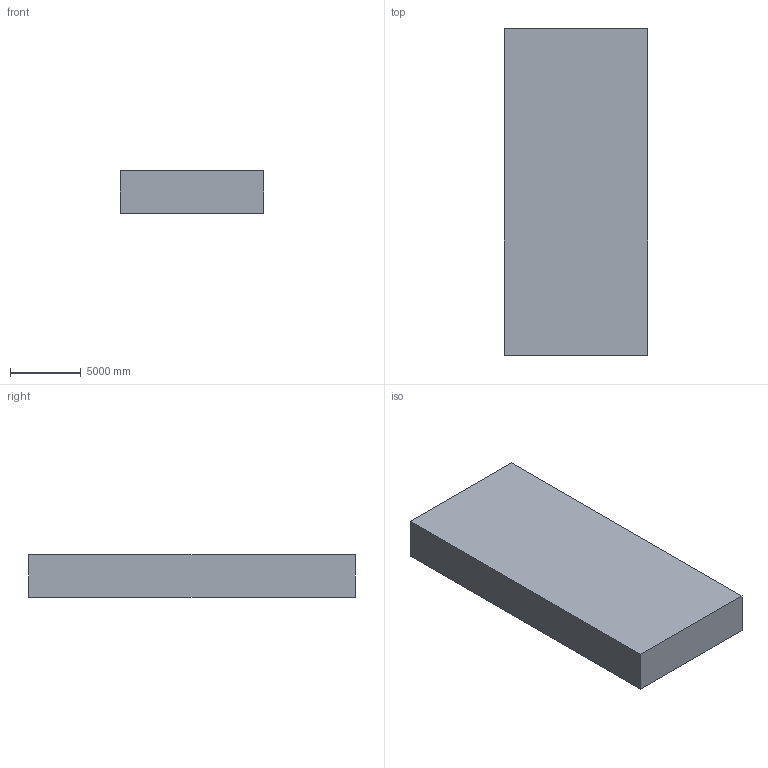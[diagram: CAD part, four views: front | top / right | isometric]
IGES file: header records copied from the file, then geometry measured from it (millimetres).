
Global section: file name: D:\univ\Stability_RD_Committee\Website\Benchmark_data\GustoMSC\WIP\R02\UNITS-data-sheet-jackup-and-semisub-Rev-2\Geometry\Jackup_COMPARTMENT.igs; native system: Rhinoceros ( Dec 12 2013 ); preprocessor: Trout Lake IGES 012 Dec 12 2013; date: 140212.193654; units: metre
Bounding box: 10100 x 23000 x 3000 mm (x, y, z)
Surface area: 663200000 mm2 (no closed solid volume)
Topology: 0 solids, 0 shells, 6 faces, 24 edges, 24 vertices
Faces by surface type: bspline 6
